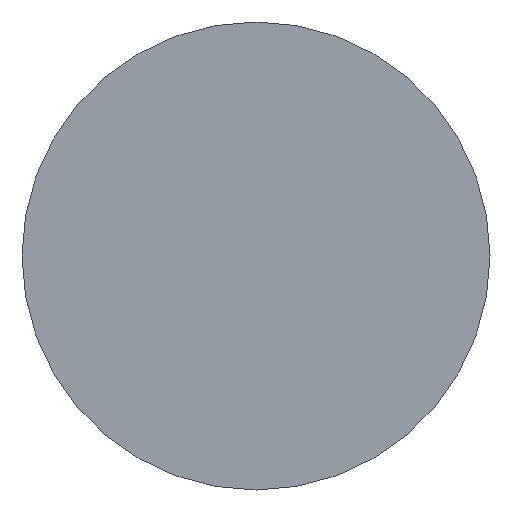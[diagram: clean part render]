
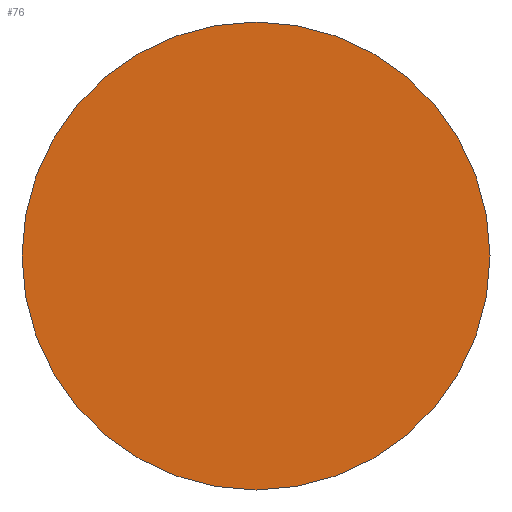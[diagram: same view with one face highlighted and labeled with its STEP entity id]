
A CAD part, left-side view. The second image highlights one B-rep face of the part: STEP entity #76.
In plain terms, the highlighted planar face has unit normal (-1, 0, 0).
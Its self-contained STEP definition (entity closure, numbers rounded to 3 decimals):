
#14 = AXIS2_PLACEMENT_3D ( 'NONE', #157, #161, #162 ) ;
#20 = CIRCLE ( 'NONE', #243, 4. ) ;
#32 = CARTESIAN_POINT ( 'NONE',  ( 0., 0., 0. ) ) ;
#33 = CIRCLE ( 'NONE', #14, 4. ) ;
#42 = DIRECTION ( 'NONE',  ( -1., 0., 0. ) ) ;
#48 = VERTEX_POINT ( 'NONE', #66 ) ;
#66 = CARTESIAN_POINT ( 'NONE',  ( 0., 4., 0. ) ) ;
#76 = ADVANCED_FACE ( 'NONE', ( #86 ), #95, .T. ) ;
#86 = FACE_OUTER_BOUND ( 'NONE', #252, .T. ) ;
#95 = PLANE ( 'NONE',  #116 ) ;
#116 = AXIS2_PLACEMENT_3D ( 'NONE', #118, #42, #241 ) ;
#118 = CARTESIAN_POINT ( 'NONE',  ( 0., 0., 0. ) ) ;
#157 = CARTESIAN_POINT ( 'NONE',  ( 0., 0., 0. ) ) ;
#161 = DIRECTION ( 'NONE',  ( 1., 0., 0. ) ) ;
#162 = DIRECTION ( 'NONE',  ( 0., 1., 0. ) ) ;
#163 = DIRECTION ( 'NONE',  ( 1., 0., 0. ) ) ;
#168 = CARTESIAN_POINT ( 'NONE',  ( 0., -4., 0. ) ) ;
#192 = EDGE_CURVE ( 'NONE', #48, #265, #20, .T. ) ;
#223 = ORIENTED_EDGE ( 'NONE', *, *, #192, .F. ) ;
#241 = DIRECTION ( 'NONE',  ( 0., -1., 0. ) ) ;
#243 = AXIS2_PLACEMENT_3D ( 'NONE', #32, #163, #250 ) ;
#250 = DIRECTION ( 'NONE',  ( 0., 1., 0. ) ) ;
#252 = EDGE_LOOP ( 'NONE', ( #223, #270 ) ) ;
#265 = VERTEX_POINT ( 'NONE', #168 ) ;
#270 = ORIENTED_EDGE ( 'NONE', *, *, #272, .F. ) ;
#272 = EDGE_CURVE ( 'NONE', #265, #48, #33, .T. ) ;
